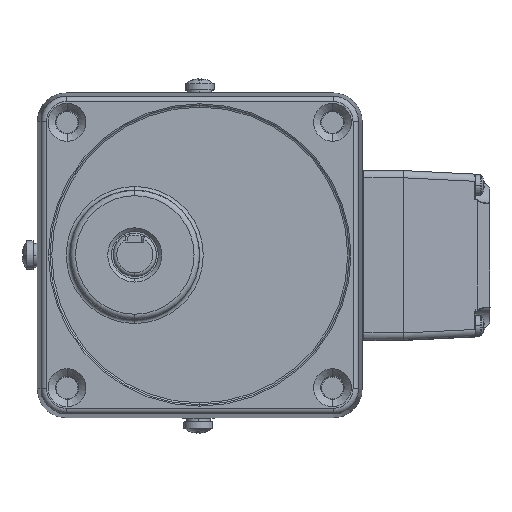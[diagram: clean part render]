
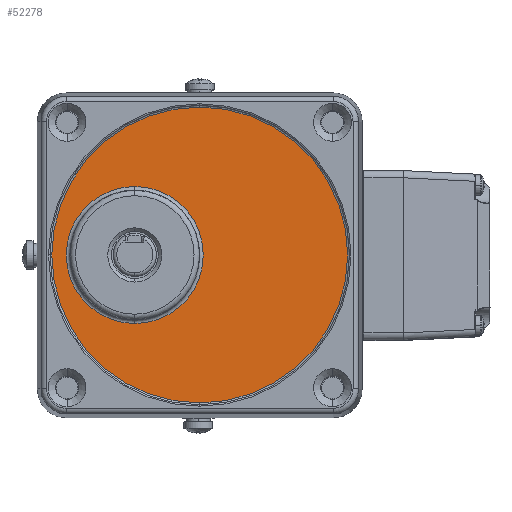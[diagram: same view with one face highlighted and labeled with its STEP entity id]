
A CAD part, top view. The second image highlights one B-rep face of the part: STEP entity #52278.
In plain terms, the highlighted planar face has unit normal (0, 0, 1) as drawn and (1, 0, 0) by its records, which use the part's own axes.
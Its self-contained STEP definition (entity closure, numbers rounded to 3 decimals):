
#3921 = ORIENTED_EDGE ( 'NONE', *, *, #60704, .F. ) ;
#6279 = CARTESIAN_POINT ( 'NONE',  ( 2697.792, -756.175, 18. ) ) ;
#10645 = DIRECTION ( 'NONE',  ( -1., 0., 0. ) ) ;
#12758 = ORIENTED_EDGE ( 'NONE', *, *, #38172, .F. ) ;
#14607 = AXIS2_PLACEMENT_3D ( 'NONE', #30781, #44428, #64645 ) ;
#19340 = CARTESIAN_POINT ( 'NONE',  ( 2697.792, -775.157, 0. ) ) ;
#19443 = DIRECTION ( 'NONE',  ( 1., 0., 0. ) ) ;
#20005 = EDGE_LOOP ( 'NONE', ( #61260, #3921 ) ) ;
#21899 = VERTEX_POINT ( 'NONE', #30188 ) ;
#22234 = DIRECTION ( 'NONE',  ( 0., 1., 0. ) ) ;
#23283 = AXIS2_PLACEMENT_3D ( 'NONE', #63070, #27201, #22234 ) ;
#24336 = DIRECTION ( 'NONE',  ( 1., 0., 0. ) ) ;
#26538 = CARTESIAN_POINT ( 'NONE',  ( 2697.792, -775.157, 0. ) ) ;
#27201 = DIRECTION ( 'NONE',  ( -1., 0., 0. ) ) ;
#27646 = CIRCLE ( 'NONE', #35063, 18.983 ) ;
#27988 = EDGE_LOOP ( 'NONE', ( #61179, #12758 ) ) ;
#30188 = CARTESIAN_POINT ( 'NONE',  ( 2697.792, -816.149, 0. ) ) ;
#30548 = CIRCLE ( 'NONE', #14607, 18.983 ) ;
#30781 = CARTESIAN_POINT ( 'NONE',  ( 2697.792, -775.157, 18. ) ) ;
#33980 = PLANE ( 'NONE',  #44283 ) ;
#35063 = AXIS2_PLACEMENT_3D ( 'NONE', #40710, #19443, #55640 ) ;
#36205 = DIRECTION ( 'NONE',  ( 0., -1., 0. ) ) ;
#38172 = EDGE_CURVE ( 'NONE', #63753, #21899, #47639, .T. ) ;
#40553 = CIRCLE ( 'NONE', #60678, 40.991 ) ;
#40710 = CARTESIAN_POINT ( 'NONE',  ( 2697.792, -775.157, 18. ) ) ;
#40770 = EDGE_CURVE ( 'NONE', #21899, #63753, #40553, .T. ) ;
#44283 = AXIS2_PLACEMENT_3D ( 'NONE', #19340, #24336, #53912 ) ;
#44286 = FACE_BOUND ( 'NONE', #20005, .T. ) ;
#44428 = DIRECTION ( 'NONE',  ( 1., 0., 0. ) ) ;
#47639 = CIRCLE ( 'NONE', #23283, 40.991 ) ;
#48262 = FACE_OUTER_BOUND ( 'NONE', #27988, .T. ) ;
#48694 = VERTEX_POINT ( 'NONE', #6279 ) ;
#52278 = ADVANCED_FACE ( 'NONE', ( #48262, #44286 ), #33980, .T. ) ;
#53912 = DIRECTION ( 'NONE',  ( 0., 1., 0. ) ) ;
#55640 = DIRECTION ( 'NONE',  ( 0., -1., 0. ) ) ;
#56793 = EDGE_CURVE ( 'NONE', #56961, #48694, #27646, .T. ) ;
#56961 = VERTEX_POINT ( 'NONE', #57599 ) ;
#57599 = CARTESIAN_POINT ( 'NONE',  ( 2697.792, -794.14, 18. ) ) ;
#58845 = CARTESIAN_POINT ( 'NONE',  ( 2697.792, -734.166, 0. ) ) ;
#60678 = AXIS2_PLACEMENT_3D ( 'NONE', #26538, #10645, #36205 ) ;
#60704 = EDGE_CURVE ( 'NONE', #48694, #56961, #30548, .T. ) ;
#61179 = ORIENTED_EDGE ( 'NONE', *, *, #40770, .F. ) ;
#61260 = ORIENTED_EDGE ( 'NONE', *, *, #56793, .F. ) ;
#63070 = CARTESIAN_POINT ( 'NONE',  ( 2697.792, -775.157, 0. ) ) ;
#63753 = VERTEX_POINT ( 'NONE', #58845 ) ;
#64645 = DIRECTION ( 'NONE',  ( 0., 1., 0. ) ) ;
